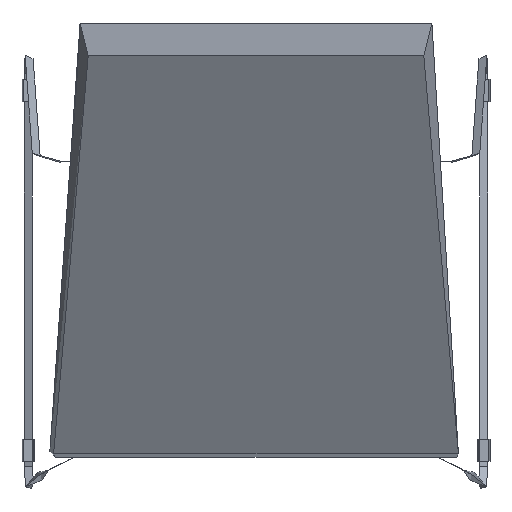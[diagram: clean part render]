
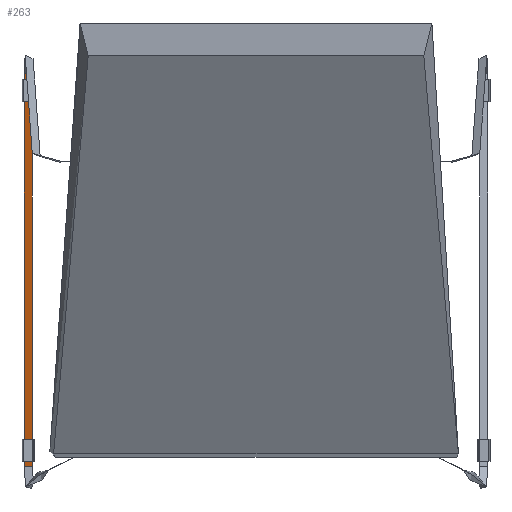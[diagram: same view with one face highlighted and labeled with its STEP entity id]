
A CAD part, top view. The second image highlights one B-rep face of the part: STEP entity #263.
In plain terms, the highlighted free-form (B-spline) face has degree [3, 2] with [4, 5] control points.
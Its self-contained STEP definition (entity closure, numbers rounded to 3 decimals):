
#46=(
BOUNDED_CURVE()
B_SPLINE_CURVE(2,(#4836,#4837,#4838,#4839,#4840),.UNSPECIFIED.,.F.,.F.)
B_SPLINE_CURVE_WITH_KNOTS((3,2,3),(0.,9.425,18.85),
 .UNSPECIFIED.)
CURVE()
GEOMETRIC_REPRESENTATION_ITEM()
RATIONAL_B_SPLINE_CURVE((1.,0.707,1.,0.707,1.))
REPRESENTATION_ITEM('')
);
#47=(
BOUNDED_CURVE()
B_SPLINE_CURVE(3,(#4841,#4842,#4843,#4844),.UNSPECIFIED.,.F.,.F.)
B_SPLINE_CURVE_WITH_KNOTS((4,4),(0.,534.337),.UNSPECIFIED.)
CURVE()
GEOMETRIC_REPRESENTATION_ITEM()
RATIONAL_B_SPLINE_CURVE((1.,1.,1.,1.))
REPRESENTATION_ITEM('')
);
#48=(
BOUNDED_CURVE()
B_SPLINE_CURVE(2,(#4845,#4846,#4847,#4848,#4849),.UNSPECIFIED.,.F.,.F.)
B_SPLINE_CURVE_WITH_KNOTS((3,2,3),(0.,9.425,18.85),
 .UNSPECIFIED.)
CURVE()
GEOMETRIC_REPRESENTATION_ITEM()
RATIONAL_B_SPLINE_CURVE((1.,0.707,1.,0.707,1.))
REPRESENTATION_ITEM('')
);
#76=(
BOUNDED_CURVE()
B_SPLINE_CURVE(3,(#5043,#5044,#5045,#5046),.UNSPECIFIED.,.F.,.F.)
B_SPLINE_CURVE_WITH_KNOTS((4,4),(0.,534.337),.UNSPECIFIED.)
CURVE()
GEOMETRIC_REPRESENTATION_ITEM()
RATIONAL_B_SPLINE_CURVE((1.,1.,1.,1.))
REPRESENTATION_ITEM('')
);
#174=(
BOUNDED_SURFACE()
B_SPLINE_SURFACE(3,2,((#4489,#4490,#4491,#4492,#4493),(#4494,#4495,#4496,
#4497,#4498),(#4499,#4500,#4501,#4502,#4503),(#4504,#4505,#4506,#4507,#4508)),
 .UNSPECIFIED.,.F.,.F.,.F.)
B_SPLINE_SURFACE_WITH_KNOTS((4,4),(3,2,3),(0.,534.337),(0.,9.425,
18.85),.UNSPECIFIED.)
GEOMETRIC_REPRESENTATION_ITEM()
RATIONAL_B_SPLINE_SURFACE(((1.,0.707,1.,0.707,1.),
(1.,0.707,1.,0.707,1.),(1.,0.707,1.,
0.707,1.),(1.,0.707,1.,0.707,1.)))
REPRESENTATION_ITEM('')
SURFACE()
);
#263=ADVANCED_FACE('',(#361),#174,.T.);
#361=FACE_OUTER_BOUND('',#459,.T.);
#459=EDGE_LOOP('',(#677,#678,#679,#680));
#677=ORIENTED_EDGE('',*,*,#961,.F.);
#678=ORIENTED_EDGE('',*,*,#962,.T.);
#679=ORIENTED_EDGE('',*,*,#963,.T.);
#680=ORIENTED_EDGE('',*,*,#991,.F.);
#961=EDGE_CURVE('',#1141,#1156,#46,.T.);
#962=EDGE_CURVE('',#1141,#1142,#47,.T.);
#963=EDGE_CURVE('',#1142,#1157,#48,.T.);
#991=EDGE_CURVE('',#1156,#1157,#76,.T.);
#1141=VERTEX_POINT('',#4702);
#1142=VERTEX_POINT('',#4703);
#1156=VERTEX_POINT('',#4717);
#1157=VERTEX_POINT('',#4718);
#4489=CARTESIAN_POINT('',(-304.47,-273.615,12.327));
#4490=CARTESIAN_POINT('',(-306.797,-273.615,17.857));
#4491=CARTESIAN_POINT('',(-312.327,-273.615,15.53));
#4492=CARTESIAN_POINT('',(-317.857,-273.615,13.203));
#4493=CARTESIAN_POINT('',(-315.53,-273.615,7.673));
#4494=CARTESIAN_POINT('',(-304.47,-95.503,12.327));
#4495=CARTESIAN_POINT('',(-306.797,-95.503,17.857));
#4496=CARTESIAN_POINT('',(-312.327,-95.503,15.53));
#4497=CARTESIAN_POINT('',(-317.857,-95.503,13.203));
#4498=CARTESIAN_POINT('',(-315.53,-95.503,7.673));
#4499=CARTESIAN_POINT('',(-304.47,82.609,12.327));
#4500=CARTESIAN_POINT('',(-306.797,82.609,17.857));
#4501=CARTESIAN_POINT('',(-312.327,82.609,15.53));
#4502=CARTESIAN_POINT('',(-317.857,82.609,13.203));
#4503=CARTESIAN_POINT('',(-315.53,82.609,7.673));
#4504=CARTESIAN_POINT('',(-304.47,260.721,12.327));
#4505=CARTESIAN_POINT('',(-306.797,260.721,17.857));
#4506=CARTESIAN_POINT('',(-312.327,260.721,15.53));
#4507=CARTESIAN_POINT('',(-317.857,260.721,13.203));
#4508=CARTESIAN_POINT('',(-315.53,260.721,7.673));
#4702=CARTESIAN_POINT('',(-304.47,-273.615,12.327));
#4703=CARTESIAN_POINT('',(-304.47,260.721,12.327));
#4717=CARTESIAN_POINT('',(-315.53,-273.615,7.673));
#4718=CARTESIAN_POINT('',(-315.53,260.721,7.673));
#4836=CARTESIAN_POINT('',(-304.47,-273.615,12.327));
#4837=CARTESIAN_POINT('',(-306.797,-273.615,17.857));
#4838=CARTESIAN_POINT('',(-312.327,-273.615,15.53));
#4839=CARTESIAN_POINT('',(-317.857,-273.615,13.203));
#4840=CARTESIAN_POINT('',(-315.53,-273.615,7.673));
#4841=CARTESIAN_POINT('',(-304.47,-273.615,12.327));
#4842=CARTESIAN_POINT('',(-304.47,-95.503,12.327));
#4843=CARTESIAN_POINT('',(-304.47,82.609,12.327));
#4844=CARTESIAN_POINT('',(-304.47,260.721,12.327));
#4845=CARTESIAN_POINT('',(-304.47,260.721,12.327));
#4846=CARTESIAN_POINT('',(-306.797,260.721,17.857));
#4847=CARTESIAN_POINT('',(-312.327,260.721,15.53));
#4848=CARTESIAN_POINT('',(-317.857,260.721,13.203));
#4849=CARTESIAN_POINT('',(-315.53,260.721,7.673));
#5043=CARTESIAN_POINT('',(-315.53,-273.615,7.673));
#5044=CARTESIAN_POINT('',(-315.53,-95.503,7.673));
#5045=CARTESIAN_POINT('',(-315.53,82.609,7.673));
#5046=CARTESIAN_POINT('',(-315.53,260.721,7.673));
